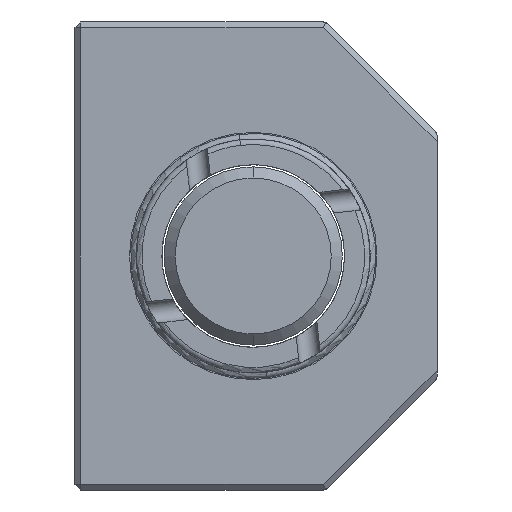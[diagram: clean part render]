
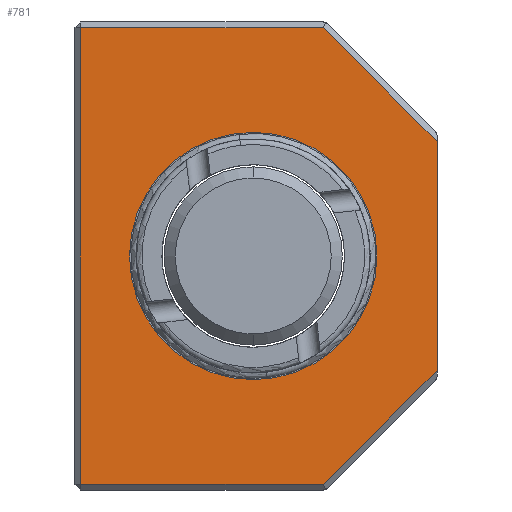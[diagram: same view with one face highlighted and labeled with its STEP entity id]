
A CAD part, left-side view. The second image highlights one B-rep face of the part: STEP entity #781.
In plain terms, the highlighted planar face has unit normal (-1, 0, 0).
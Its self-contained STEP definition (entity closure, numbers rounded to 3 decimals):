
#50 = CARTESIAN_POINT ( 'NONE',  ( 0., -21.325, 14.85 ) ) ;
#160 = VECTOR ( 'NONE', #4178, 1000. ) ;
#221 = VECTOR ( 'NONE', #1518, 1000. ) ;
#253 = VERTEX_POINT ( 'NONE', #3542 ) ;
#291 = LINE ( 'NONE', #1745, #3162 ) ;
#331 = DIRECTION ( 'NONE',  ( 0., 0., 1. ) ) ;
#345 = AXIS2_PLACEMENT_3D ( 'NONE', #3233, #4690, #3266 ) ;
#442 = CARTESIAN_POINT ( 'NONE',  ( 0., -21.325, 35.436 ) ) ;
#522 = AXIS2_PLACEMENT_3D ( 'NONE', #2304, #4107, #2332 ) ;
#657 = EDGE_LOOP ( 'NONE', ( #1895, #2441, #4686, #3985, #4680, #4691 ) ) ;
#734 = LINE ( 'NONE', #3882, #221 ) ;
#749 = LINE ( 'NONE', #1201, #2493 ) ;
#781 = ADVANCED_FACE ( 'NONE', ( #1414, #2834 ), #3714, .F. ) ;
#822 = EDGE_CURVE ( 'NONE', #253, #2290, #864, .T. ) ;
#857 = CIRCLE ( 'NONE', #345, 11.1 ) ;
#864 = LINE ( 'NONE', #3040, #2671 ) ;
#879 = EDGE_CURVE ( 'NONE', #4604, #1986, #749, .T. ) ;
#941 = CARTESIAN_POINT ( 'NONE',  ( 0., 10.675, 45.643 ) ) ;
#1007 = VERTEX_POINT ( 'NONE', #1431 ) ;
#1019 = CARTESIAN_POINT ( 'NONE',  ( 0., -11.118, 4.643 ) ) ;
#1047 = EDGE_LOOP ( 'NONE', ( #4504, #2657 ) ) ;
#1096 = EDGE_CURVE ( 'NONE', #1568, #253, #291, .T. ) ;
#1201 = CARTESIAN_POINT ( 'NONE',  ( 0., -5.075, 4.643 ) ) ;
#1266 = EDGE_CURVE ( 'NONE', #1007, #3512, #857, .T. ) ;
#1405 = CARTESIAN_POINT ( 'NONE',  ( 0., -4.825, 25.143 ) ) ;
#1414 = FACE_BOUND ( 'NONE', #1047, .T. ) ;
#1431 = CARTESIAN_POINT ( 'NONE',  ( 0., -4.825, 14.043 ) ) ;
#1518 = DIRECTION ( 'NONE',  ( 0., 0., -1. ) ) ;
#1568 = VERTEX_POINT ( 'NONE', #941 ) ;
#1609 = AXIS2_PLACEMENT_3D ( 'NONE', #1405, #3572, #331 ) ;
#1632 = DIRECTION ( 'NONE',  ( 0., 0., -1. ) ) ;
#1640 = EDGE_CURVE ( 'NONE', #3512, #1007, #1696, .T. ) ;
#1696 = CIRCLE ( 'NONE', #1609, 11.1 ) ;
#1745 = CARTESIAN_POINT ( 'NONE',  ( 0., -5.075, 45.643 ) ) ;
#1895 = ORIENTED_EDGE ( 'NONE', *, *, #4507, .F. ) ;
#1986 = VERTEX_POINT ( 'NONE', #3020 ) ;
#2290 = VERTEX_POINT ( 'NONE', #442 ) ;
#2297 = VERTEX_POINT ( 'NONE', #50 ) ;
#2304 = CARTESIAN_POINT ( 'NONE',  ( 0., -5.075, 25.143 ) ) ;
#2332 = DIRECTION ( 'NONE',  ( 0., 0., -1. ) ) ;
#2361 = LINE ( 'NONE', #4598, #2698 ) ;
#2441 = ORIENTED_EDGE ( 'NONE', *, *, #4523, .F. ) ;
#2493 = VECTOR ( 'NONE', #4134, 1000. ) ;
#2657 = ORIENTED_EDGE ( 'NONE', *, *, #1266, .F. ) ;
#2671 = VECTOR ( 'NONE', #4452, 1000. ) ;
#2698 = VECTOR ( 'NONE', #1632, 1000. ) ;
#2834 = FACE_OUTER_BOUND ( 'NONE', #657, .T. ) ;
#3020 = CARTESIAN_POINT ( 'NONE',  ( 0., 10.675, 4.643 ) ) ;
#3040 = CARTESIAN_POINT ( 'NONE',  ( 0., -11.118, 45.643 ) ) ;
#3162 = VECTOR ( 'NONE', #4266, 1000. ) ;
#3233 = CARTESIAN_POINT ( 'NONE',  ( 0., -4.825, 25.143 ) ) ;
#3266 = DIRECTION ( 'NONE',  ( 0., 0., 1. ) ) ;
#3321 = LINE ( 'NONE', #4565, #160 ) ;
#3364 = EDGE_CURVE ( 'NONE', #1568, #1986, #734, .T. ) ;
#3512 = VERTEX_POINT ( 'NONE', #3570 ) ;
#3542 = CARTESIAN_POINT ( 'NONE',  ( 0., -11.118, 45.643 ) ) ;
#3570 = CARTESIAN_POINT ( 'NONE',  ( 0., -4.825, 36.243 ) ) ;
#3572 = DIRECTION ( 'NONE',  ( -1., 0., 0. ) ) ;
#3714 = PLANE ( 'NONE',  #522 ) ;
#3882 = CARTESIAN_POINT ( 'NONE',  ( 0., 10.675, 46.143 ) ) ;
#3985 = ORIENTED_EDGE ( 'NONE', *, *, #1096, .F. ) ;
#4107 = DIRECTION ( 'NONE',  ( 1., 0., 0. ) ) ;
#4134 = DIRECTION ( 'NONE',  ( 0., 1., 0. ) ) ;
#4178 = DIRECTION ( 'NONE',  ( 0., 0.707, -0.707 ) ) ;
#4266 = DIRECTION ( 'NONE',  ( 0., -1., 0. ) ) ;
#4452 = DIRECTION ( 'NONE',  ( 0., -0.707, -0.707 ) ) ;
#4504 = ORIENTED_EDGE ( 'NONE', *, *, #1640, .F. ) ;
#4507 = EDGE_CURVE ( 'NONE', #2297, #4604, #3321, .T. ) ;
#4523 = EDGE_CURVE ( 'NONE', #2290, #2297, #2361, .T. ) ;
#4565 = CARTESIAN_POINT ( 'NONE',  ( 0., -21.325, 14.85 ) ) ;
#4598 = CARTESIAN_POINT ( 'NONE',  ( 0., -21.325, 25.143 ) ) ;
#4604 = VERTEX_POINT ( 'NONE', #1019 ) ;
#4680 = ORIENTED_EDGE ( 'NONE', *, *, #3364, .T. ) ;
#4686 = ORIENTED_EDGE ( 'NONE', *, *, #822, .F. ) ;
#4690 = DIRECTION ( 'NONE',  ( -1., 0., 0. ) ) ;
#4691 = ORIENTED_EDGE ( 'NONE', *, *, #879, .F. ) ;
